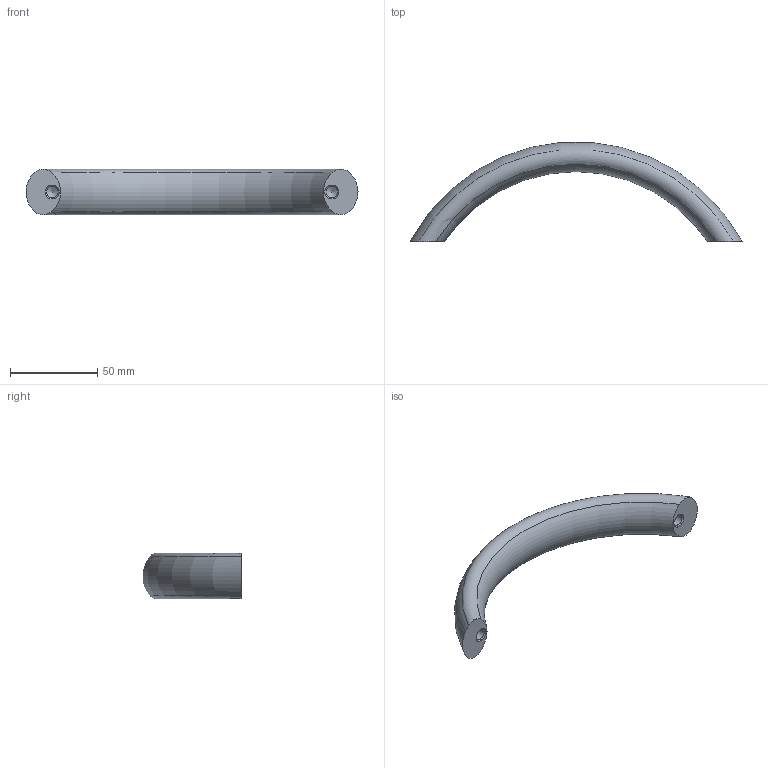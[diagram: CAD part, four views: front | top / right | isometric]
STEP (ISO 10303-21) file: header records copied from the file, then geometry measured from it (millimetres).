
FILE_DESCRIPTION( ( 'STEP AP203' ), '1' );
FILE_NAME( 'C:/Temp/Ganter_Step_05_03_2020/data/1_2/gn_565_4/Arch handle GN 565.4-26-160-A-EL.stp', '2020-03-05T10:12:32', ( 'License CC BY-ND 4.0' ), ( 'CADENAS' ), ' ', 'PARTsolutions', ' ' );
FILE_SCHEMA( ( 'CONFIG_CONTROL_DESIGN' ) );
Length unit declared in the file: millimetre
Products named in the file (1): _Arch handle GN 565.4-26-160-A-EL
Bounding box: 190 x 56.64 x 25.97 mm (x, y, z)
Volume: 69227.4 mm3; surface area: 15324.1 mm2
Topology: 1 solids, 1 shells, 12 faces, 26 edges, 16 vertices
Faces by surface type: cone 4, torus 4, cylinder 2, plane 2
Full cylindrical faces by diameter (mm): 6.647 x2
Entity records: 492 total; most frequent: CARTESIAN_POINT 223, DIRECTION 46, ORIENTED_EDGE 36, AXIS2_PLACEMENT_3D 23, EDGE_LOOP 18, EDGE_CURVE 18, VERTEX_POINT 16, FACE_OUTER_BOUND 14
